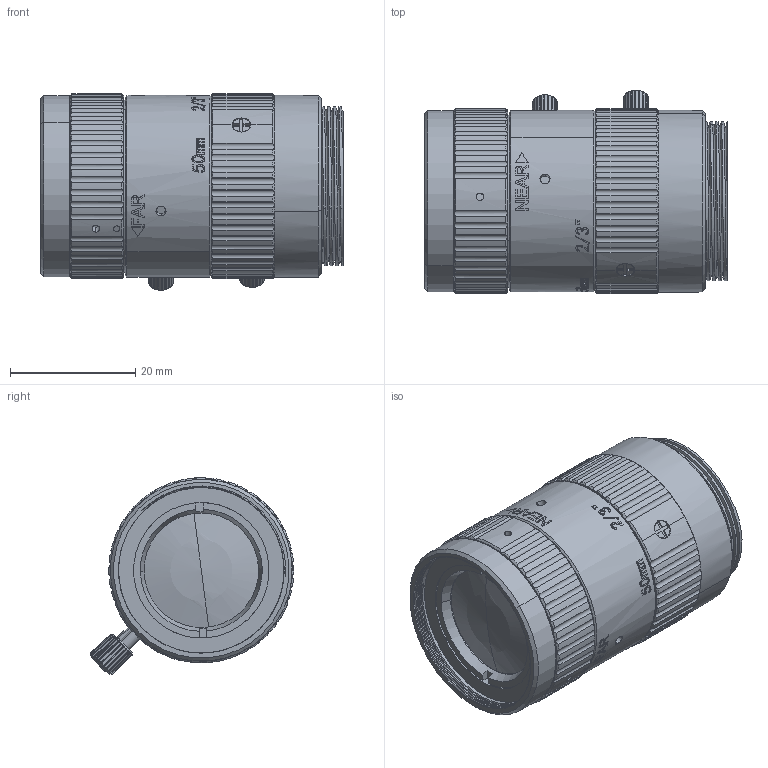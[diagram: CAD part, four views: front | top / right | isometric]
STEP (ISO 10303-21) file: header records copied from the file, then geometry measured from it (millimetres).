
FILE_DESCRIPTION (( 'STEP AP203' ), '1' );
FILE_NAME ('FAU5028MC.HR-H-无穷远---.STEP', '2025-11-04T07:51:58', ( '' ), ( '' ), 'SwSTEP 2.0', 'SolidWorks 2019', '' );
FILE_SCHEMA (( 'CONFIG_CONTROL_DESIGN' ));
Length unit declared in the file: millimetre
Products named in the file (1): FAU5028MC.HR-H-无穷远---
Bounding box: 48.2 x 32.48 x 31.32 mm (x, y, z)
Volume: 28608.8 mm3; surface area: 11997.9 mm2
Topology: 1 solids, 10 shells, 1079 faces, 2870 edges, 1876 vertices
Faces by surface type: cylinder 412, plane 373, bspline 158, cone 130, sphere 6
Entity records: 51776 total; most frequent: CARTESIAN_POINT 26758, ORIENTED_EDGE 5728, DIRECTION 4477, EDGE_CURVE 2864, VERTEX_POINT 1874, AXIS2_PLACEMENT_3D 1834, EDGE_LOOP 1174, B_SPLINE_CURVE_WITH_KNOTS 1110
